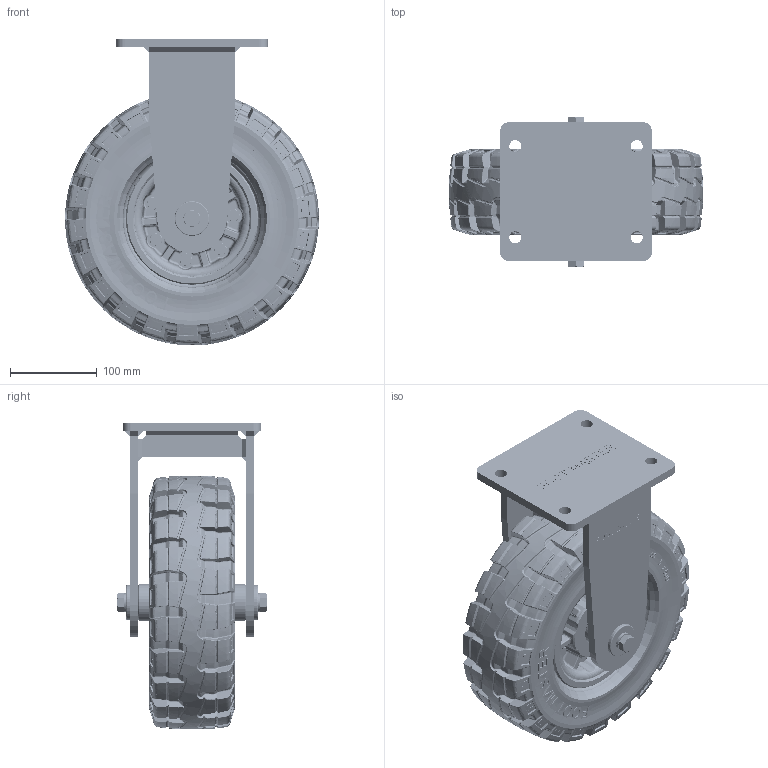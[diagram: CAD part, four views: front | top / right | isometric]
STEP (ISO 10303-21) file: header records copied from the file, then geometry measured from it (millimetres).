
FILE_DESCRIPTION(/* description */ (''),/* implementation_level */ '2;1');
FILE_NAME(/* name */ '\\192.168.10.38\지덕공유\1.기술연구소\2.연구개발 진행중\121.Solidtire caster_2024.11.22\제품설계\3D\홈페이지용\3.GT-300-ARF-TRD.stp',/* time_stamp */ '2025-09-01T10:25:31+09:00',/* author */ ('admin'),/* organization */ (''),/* preprocessor_version */ 'ST-DEVELOPER v18.1',/* originating_system */ 'Autodesk Inventor 2021',/* authorisation */ '');
FILE_SCHEMA (('AUTOMOTIVE_DESIGN { 1 0 10303 214 3 1 1 }'));
Products named in the file (1): 3.GT-300-ARF-TIRE-Rev01_2025.08.08_Shrinkwrap_1
Bounding box: 292.88 x 173 x 353.88 mm (x, y, z)
Volume: 6270324.6 mm3; surface area: 471436.3 mm2
Topology: 1 solids, 1 shells, 9528 faces, 23266 edges, 13984 vertices
Faces by surface type: bspline 5713, plane 1675, cylinder 723, torus 596, cone 569, sphere 252
Full cylindrical faces by diameter (mm): 8 x9, 12.5 x7, 14 x4, 17 x5, 40 x2, 42.7 x2, 160 x2
Entity records: 395441 total; most frequent: CARTESIAN_POINT 201102, ORIENTED_EDGE 46420, DIRECTION 25189, EDGE_CURVE 23210, VERTEX_POINT 13984, B_SPLINE_CURVE_WITH_KNOTS 11549, AXIS2_PLACEMENT_3D 10341, EDGE_LOOP 9850
